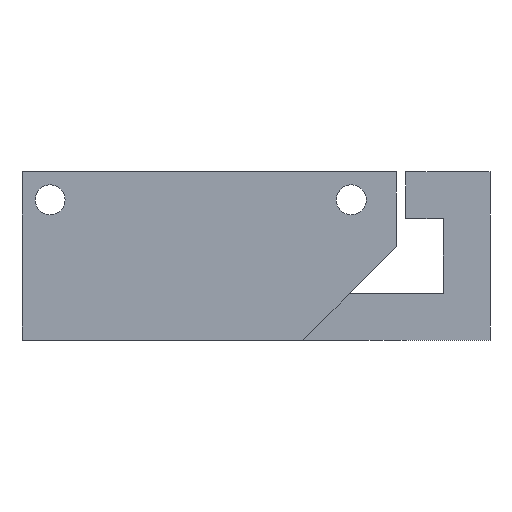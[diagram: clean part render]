
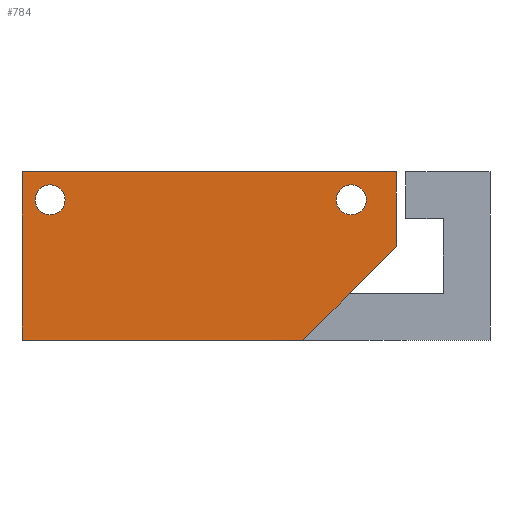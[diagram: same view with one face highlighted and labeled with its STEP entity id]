
A CAD part, left-side view. The second image highlights one B-rep face of the part: STEP entity #784.
In plain terms, the highlighted planar face has unit normal (-1, 0, 0).
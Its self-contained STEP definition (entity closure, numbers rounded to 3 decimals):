
#32 = PLANE('',#33);
#33 = AXIS2_PLACEMENT_3D('',#34,#35,#36);
#34 = CARTESIAN_POINT('',(7.,-12.5,-2.5));
#35 = DIRECTION('',(0.,0.,-1.));
#36 = DIRECTION('',(-1.,0.,0.));
#57 = VERTEX_POINT('',#58);
#58 = CARTESIAN_POINT('',(-35.5,-17.5,-2.5));
#72 = PLANE('',#73);
#73 = AXIS2_PLACEMENT_3D('',#74,#75,#76);
#74 = CARTESIAN_POINT('',(-30.5,-22.5,2.5));
#75 = DIRECTION('',(0.,0.707,0.707));
#76 = DIRECTION('',(-1.,0.,0.));
#84 = EDGE_CURVE('',#57,#85,#87,.T.);
#85 = VERTEX_POINT('',#86);
#86 = CARTESIAN_POINT('',(-35.5,12.5,-2.5));
#87 = SURFACE_CURVE('',#88,(#92,#99),.PCURVE_S1.);
#88 = LINE('',#89,#90);
#89 = CARTESIAN_POINT('',(-35.5,-27.5,-2.5));
#90 = VECTOR('',#91,1.);
#91 = DIRECTION('',(0.,1.,0.));
#92 = PCURVE('',#32,#93);
#93 = DEFINITIONAL_REPRESENTATION('',(#94),#98);
#94 = LINE('',#95,#96);
#95 = CARTESIAN_POINT('',(42.5,-15.));
#96 = VECTOR('',#97,1.);
#97 = DIRECTION('',(0.,1.));
#98 = ( GEOMETRIC_REPRESENTATION_CONTEXT(2) 
PARAMETRIC_REPRESENTATION_CONTEXT() REPRESENTATION_CONTEXT('2D SPACE',''
  ) );
#99 = PCURVE('',#100,#105);
#100 = PLANE('',#101);
#101 = AXIS2_PLACEMENT_3D('',#102,#103,#104);
#102 = CARTESIAN_POINT('',(-35.5,-27.5,-2.5));
#103 = DIRECTION('',(1.,0.,0.));
#104 = DIRECTION('',(0.,0.,1.));
#105 = DEFINITIONAL_REPRESENTATION('',(#106),#110);
#106 = LINE('',#107,#108);
#107 = CARTESIAN_POINT('',(0.,0.));
#108 = VECTOR('',#109,1.);
#109 = DIRECTION('',(0.,-1.));
#110 = ( GEOMETRIC_REPRESENTATION_CONTEXT(2) 
PARAMETRIC_REPRESENTATION_CONTEXT() REPRESENTATION_CONTEXT('2D SPACE',''
  ) );
#128 = PLANE('',#129);
#129 = AXIS2_PLACEMENT_3D('',#130,#131,#132);
#130 = CARTESIAN_POINT('',(-35.5,12.5,-2.5));
#131 = DIRECTION('',(0.,-1.,0.));
#132 = DIRECTION('',(-1.,0.,0.));
#556 = PLANE('',#557);
#557 = AXIS2_PLACEMENT_3D('',#558,#559,#560);
#558 = CARTESIAN_POINT('',(-35.5,12.5,15.5));
#559 = DIRECTION('',(0.,0.,1.));
#560 = DIRECTION('',(1.,0.,0.));
#584 = PLANE('',#585);
#585 = AXIS2_PLACEMENT_3D('',#586,#587,#588);
#586 = CARTESIAN_POINT('',(-30.5,-27.5,-2.5));
#587 = DIRECTION('',(0.,1.,0.));
#588 = DIRECTION('',(1.,0.,0.));
#640 = CYLINDRICAL_SURFACE('',#641,1.6);
#641 = AXIS2_PLACEMENT_3D('',#642,#643,#644);
#642 = CARTESIAN_POINT('',(-35.5,-22.68,12.5));
#643 = DIRECTION('',(-1.,0.,0.));
#644 = DIRECTION('',(0.,-1.,0.));
#675 = CYLINDRICAL_SURFACE('',#676,1.6);
#676 = AXIS2_PLACEMENT_3D('',#677,#678,#679);
#677 = CARTESIAN_POINT('',(-35.5,9.5,12.5));
#678 = DIRECTION('',(-1.,0.,0.));
#679 = DIRECTION('',(0.,-1.,0.));
#692 = EDGE_CURVE('',#57,#693,#695,.T.);
#693 = VERTEX_POINT('',#694);
#694 = CARTESIAN_POINT('',(-35.5,-27.5,7.5));
#695 = SURFACE_CURVE('',#696,(#700,#707),.PCURVE_S1.);
#696 = LINE('',#697,#698);
#697 = CARTESIAN_POINT('',(-35.5,-22.5,2.5));
#698 = VECTOR('',#699,1.);
#699 = DIRECTION('',(0.,-0.707,0.707));
#700 = PCURVE('',#72,#701);
#701 = DEFINITIONAL_REPRESENTATION('',(#702),#706);
#702 = LINE('',#703,#704);
#703 = CARTESIAN_POINT('',(5.,0.));
#704 = VECTOR('',#705,1.);
#705 = DIRECTION('',(0.,1.));
#706 = ( GEOMETRIC_REPRESENTATION_CONTEXT(2) 
PARAMETRIC_REPRESENTATION_CONTEXT() REPRESENTATION_CONTEXT('2D SPACE',''
  ) );
#707 = PCURVE('',#100,#708);
#708 = DEFINITIONAL_REPRESENTATION('',(#709),#713);
#709 = LINE('',#710,#711);
#710 = CARTESIAN_POINT('',(5.,-5.));
#711 = VECTOR('',#712,1.);
#712 = DIRECTION('',(0.707,0.707));
#713 = ( GEOMETRIC_REPRESENTATION_CONTEXT(2) 
PARAMETRIC_REPRESENTATION_CONTEXT() REPRESENTATION_CONTEXT('2D SPACE',''
  ) );
#784 = ADVANCED_FACE('',(#785,#879,#909),#100,.F.);
#785 = FACE_BOUND('',#786,.F.);
#786 = EDGE_LOOP('',(#787,#788,#811,#834,#857,#878));
#787 = ORIENTED_EDGE('',*,*,#84,.T.);
#788 = ORIENTED_EDGE('',*,*,#789,.T.);
#789 = EDGE_CURVE('',#85,#790,#792,.T.);
#790 = VERTEX_POINT('',#791);
#791 = CARTESIAN_POINT('',(-35.5,12.5,2.5));
#792 = SURFACE_CURVE('',#793,(#797,#804),.PCURVE_S1.);
#793 = LINE('',#794,#795);
#794 = CARTESIAN_POINT('',(-35.5,12.5,-2.5));
#795 = VECTOR('',#796,1.);
#796 = DIRECTION('',(0.,0.,1.));
#797 = PCURVE('',#100,#798);
#798 = DEFINITIONAL_REPRESENTATION('',(#799),#803);
#799 = LINE('',#800,#801);
#800 = CARTESIAN_POINT('',(0.,-40.));
#801 = VECTOR('',#802,1.);
#802 = DIRECTION('',(1.,0.));
#803 = ( GEOMETRIC_REPRESENTATION_CONTEXT(2) 
PARAMETRIC_REPRESENTATION_CONTEXT() REPRESENTATION_CONTEXT('2D SPACE',''
  ) );
#804 = PCURVE('',#128,#805);
#805 = DEFINITIONAL_REPRESENTATION('',(#806),#810);
#806 = LINE('',#807,#808);
#807 = CARTESIAN_POINT('',(0.,0.));
#808 = VECTOR('',#809,1.);
#809 = DIRECTION('',(0.,-1.));
#810 = ( GEOMETRIC_REPRESENTATION_CONTEXT(2) 
PARAMETRIC_REPRESENTATION_CONTEXT() REPRESENTATION_CONTEXT('2D SPACE',''
  ) );
#811 = ORIENTED_EDGE('',*,*,#812,.T.);
#812 = EDGE_CURVE('',#790,#813,#815,.T.);
#813 = VERTEX_POINT('',#814);
#814 = CARTESIAN_POINT('',(-35.5,12.5,15.5));
#815 = SURFACE_CURVE('',#816,(#820,#827),.PCURVE_S1.);
#816 = LINE('',#817,#818);
#817 = CARTESIAN_POINT('',(-35.5,12.5,2.5));
#818 = VECTOR('',#819,1.);
#819 = DIRECTION('',(0.,0.,1.));
#820 = PCURVE('',#100,#821);
#821 = DEFINITIONAL_REPRESENTATION('',(#822),#826);
#822 = LINE('',#823,#824);
#823 = CARTESIAN_POINT('',(5.,-40.));
#824 = VECTOR('',#825,1.);
#825 = DIRECTION('',(1.,0.));
#826 = ( GEOMETRIC_REPRESENTATION_CONTEXT(2) 
PARAMETRIC_REPRESENTATION_CONTEXT() REPRESENTATION_CONTEXT('2D SPACE',''
  ) );
#827 = PCURVE('',#128,#828);
#828 = DEFINITIONAL_REPRESENTATION('',(#829),#833);
#829 = LINE('',#830,#831);
#830 = CARTESIAN_POINT('',(0.,-5.));
#831 = VECTOR('',#832,1.);
#832 = DIRECTION('',(0.,-1.));
#833 = ( GEOMETRIC_REPRESENTATION_CONTEXT(2) 
PARAMETRIC_REPRESENTATION_CONTEXT() REPRESENTATION_CONTEXT('2D SPACE',''
  ) );
#834 = ORIENTED_EDGE('',*,*,#835,.F.);
#835 = EDGE_CURVE('',#836,#813,#838,.T.);
#836 = VERTEX_POINT('',#837);
#837 = CARTESIAN_POINT('',(-35.5,-27.5,15.5));
#838 = SURFACE_CURVE('',#839,(#843,#850),.PCURVE_S1.);
#839 = LINE('',#840,#841);
#840 = CARTESIAN_POINT('',(-35.5,-27.5,15.5));
#841 = VECTOR('',#842,1.);
#842 = DIRECTION('',(0.,1.,0.));
#843 = PCURVE('',#100,#844);
#844 = DEFINITIONAL_REPRESENTATION('',(#845),#849);
#845 = LINE('',#846,#847);
#846 = CARTESIAN_POINT('',(18.,0.));
#847 = VECTOR('',#848,1.);
#848 = DIRECTION('',(0.,-1.));
#849 = ( GEOMETRIC_REPRESENTATION_CONTEXT(2) 
PARAMETRIC_REPRESENTATION_CONTEXT() REPRESENTATION_CONTEXT('2D SPACE',''
  ) );
#850 = PCURVE('',#556,#851);
#851 = DEFINITIONAL_REPRESENTATION('',(#852),#856);
#852 = LINE('',#853,#854);
#853 = CARTESIAN_POINT('',(0.,-40.));
#854 = VECTOR('',#855,1.);
#855 = DIRECTION('',(0.,1.));
#856 = ( GEOMETRIC_REPRESENTATION_CONTEXT(2) 
PARAMETRIC_REPRESENTATION_CONTEXT() REPRESENTATION_CONTEXT('2D SPACE',''
  ) );
#857 = ORIENTED_EDGE('',*,*,#858,.F.);
#858 = EDGE_CURVE('',#693,#836,#859,.T.);
#859 = SURFACE_CURVE('',#860,(#864,#871),.PCURVE_S1.);
#860 = LINE('',#861,#862);
#861 = CARTESIAN_POINT('',(-35.5,-27.5,2.5));
#862 = VECTOR('',#863,1.);
#863 = DIRECTION('',(0.,0.,1.));
#864 = PCURVE('',#100,#865);
#865 = DEFINITIONAL_REPRESENTATION('',(#866),#870);
#866 = LINE('',#867,#868);
#867 = CARTESIAN_POINT('',(5.,0.));
#868 = VECTOR('',#869,1.);
#869 = DIRECTION('',(1.,0.));
#870 = ( GEOMETRIC_REPRESENTATION_CONTEXT(2) 
PARAMETRIC_REPRESENTATION_CONTEXT() REPRESENTATION_CONTEXT('2D SPACE',''
  ) );
#871 = PCURVE('',#584,#872);
#872 = DEFINITIONAL_REPRESENTATION('',(#873),#877);
#873 = LINE('',#874,#875);
#874 = CARTESIAN_POINT('',(-5.,-5.));
#875 = VECTOR('',#876,1.);
#876 = DIRECTION('',(0.,-1.));
#877 = ( GEOMETRIC_REPRESENTATION_CONTEXT(2) 
PARAMETRIC_REPRESENTATION_CONTEXT() REPRESENTATION_CONTEXT('2D SPACE',''
  ) );
#878 = ORIENTED_EDGE('',*,*,#692,.F.);
#879 = FACE_BOUND('',#880,.F.);
#880 = EDGE_LOOP('',(#881));
#881 = ORIENTED_EDGE('',*,*,#882,.T.);
#882 = EDGE_CURVE('',#883,#883,#885,.T.);
#883 = VERTEX_POINT('',#884);
#884 = CARTESIAN_POINT('',(-35.5,-24.28,12.5));
#885 = SURFACE_CURVE('',#886,(#891,#902),.PCURVE_S1.);
#886 = CIRCLE('',#887,1.6);
#887 = AXIS2_PLACEMENT_3D('',#888,#889,#890);
#888 = CARTESIAN_POINT('',(-35.5,-22.68,12.5));
#889 = DIRECTION('',(-1.,0.,0.));
#890 = DIRECTION('',(0.,-1.,0.));
#891 = PCURVE('',#100,#892);
#892 = DEFINITIONAL_REPRESENTATION('',(#893),#901);
#893 = ( BOUNDED_CURVE() B_SPLINE_CURVE(2,(#894,#895,#896,#897,#898,#899
,#900),.UNSPECIFIED.,.F.,.F.) B_SPLINE_CURVE_WITH_KNOTS((1,2,2,2,2,1),(
    -2.094,0.,2.094,4.189,6.283,
8.378),.UNSPECIFIED.) CURVE() GEOMETRIC_REPRESENTATION_ITEM() 
RATIONAL_B_SPLINE_CURVE((1.,0.5,1.,0.5,1.,0.5,1.)) REPRESENTATION_ITEM(
  '') );
#894 = CARTESIAN_POINT('',(15.,-3.22));
#895 = CARTESIAN_POINT('',(17.771,-3.22));
#896 = CARTESIAN_POINT('',(16.386,-5.62));
#897 = CARTESIAN_POINT('',(15.,-8.02));
#898 = CARTESIAN_POINT('',(13.614,-5.62));
#899 = CARTESIAN_POINT('',(12.229,-3.22));
#900 = CARTESIAN_POINT('',(15.,-3.22));
#901 = ( GEOMETRIC_REPRESENTATION_CONTEXT(2) 
PARAMETRIC_REPRESENTATION_CONTEXT() REPRESENTATION_CONTEXT('2D SPACE',''
  ) );
#902 = PCURVE('',#640,#903);
#903 = DEFINITIONAL_REPRESENTATION('',(#904),#908);
#904 = LINE('',#905,#906);
#905 = CARTESIAN_POINT('',(0.,0.));
#906 = VECTOR('',#907,1.);
#907 = DIRECTION('',(1.,0.));
#908 = ( GEOMETRIC_REPRESENTATION_CONTEXT(2) 
PARAMETRIC_REPRESENTATION_CONTEXT() REPRESENTATION_CONTEXT('2D SPACE',''
  ) );
#909 = FACE_BOUND('',#910,.F.);
#910 = EDGE_LOOP('',(#911));
#911 = ORIENTED_EDGE('',*,*,#912,.T.);
#912 = EDGE_CURVE('',#913,#913,#915,.T.);
#913 = VERTEX_POINT('',#914);
#914 = CARTESIAN_POINT('',(-35.5,7.9,12.5));
#915 = SURFACE_CURVE('',#916,(#921,#932),.PCURVE_S1.);
#916 = CIRCLE('',#917,1.6);
#917 = AXIS2_PLACEMENT_3D('',#918,#919,#920);
#918 = CARTESIAN_POINT('',(-35.5,9.5,12.5));
#919 = DIRECTION('',(-1.,0.,0.));
#920 = DIRECTION('',(0.,-1.,0.));
#921 = PCURVE('',#100,#922);
#922 = DEFINITIONAL_REPRESENTATION('',(#923),#931);
#923 = ( BOUNDED_CURVE() B_SPLINE_CURVE(2,(#924,#925,#926,#927,#928,#929
,#930),.UNSPECIFIED.,.F.,.F.) B_SPLINE_CURVE_WITH_KNOTS((1,2,2,2,2,1),(
    -2.094,0.,2.094,4.189,6.283,
8.378),.UNSPECIFIED.) CURVE() GEOMETRIC_REPRESENTATION_ITEM() 
RATIONAL_B_SPLINE_CURVE((1.,0.5,1.,0.5,1.,0.5,1.)) REPRESENTATION_ITEM(
  '') );
#924 = CARTESIAN_POINT('',(15.,-35.4));
#925 = CARTESIAN_POINT('',(17.771,-35.4));
#926 = CARTESIAN_POINT('',(16.386,-37.8));
#927 = CARTESIAN_POINT('',(15.,-40.2));
#928 = CARTESIAN_POINT('',(13.614,-37.8));
#929 = CARTESIAN_POINT('',(12.229,-35.4));
#930 = CARTESIAN_POINT('',(15.,-35.4));
#931 = ( GEOMETRIC_REPRESENTATION_CONTEXT(2) 
PARAMETRIC_REPRESENTATION_CONTEXT() REPRESENTATION_CONTEXT('2D SPACE',''
  ) );
#932 = PCURVE('',#675,#933);
#933 = DEFINITIONAL_REPRESENTATION('',(#934),#938);
#934 = LINE('',#935,#936);
#935 = CARTESIAN_POINT('',(0.,0.));
#936 = VECTOR('',#937,1.);
#937 = DIRECTION('',(1.,0.));
#938 = ( GEOMETRIC_REPRESENTATION_CONTEXT(2) 
PARAMETRIC_REPRESENTATION_CONTEXT() REPRESENTATION_CONTEXT('2D SPACE',''
  ) );
